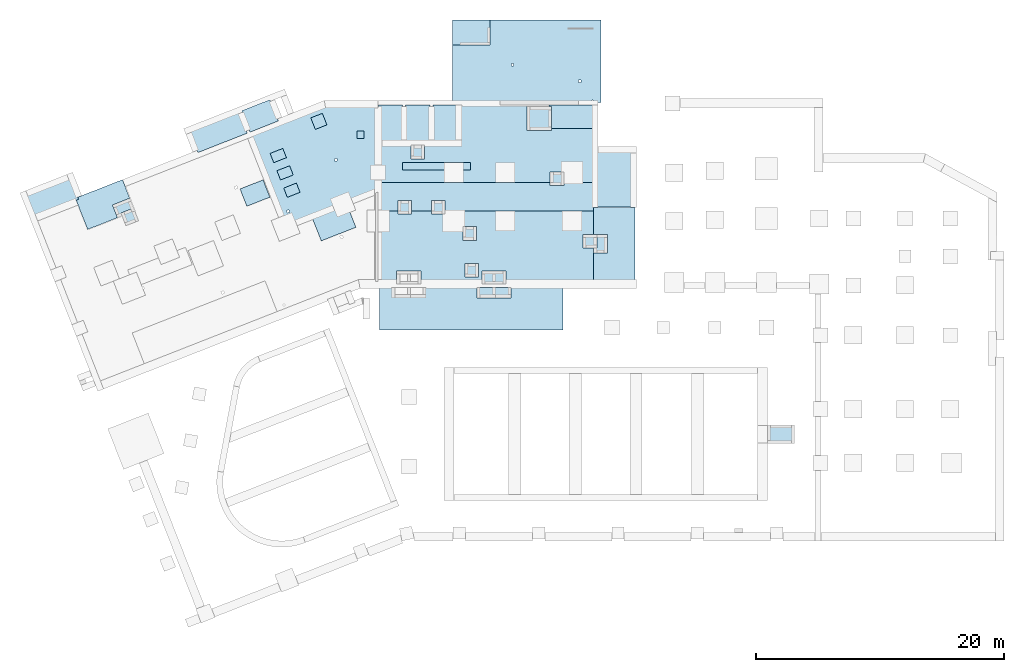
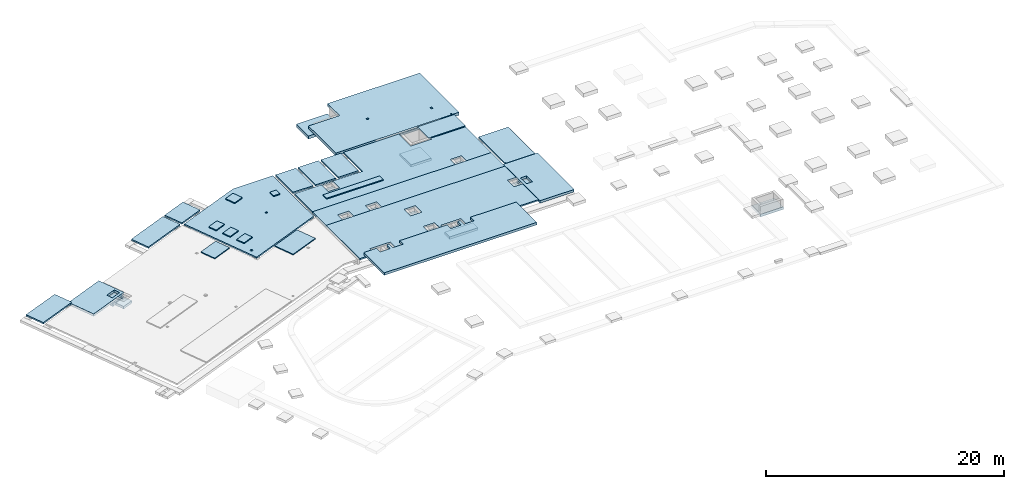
# One storey, part 4 of 9: 38 slabs, 24 openings.
"""IFC2X3 building model written with IfcOpenShell, lengths in metres."""

from ifc_helpers import new_model, entity, si_unit, converted_unit, direction, frame, frame_2d, origin, origin_with_axes, origin_2d_with_axis, place, context, subcontext, project, spatial, polyline, rectangle, circle, outline, extrude, material, element, save


model = new_model("IFC2X3")

# Units and contexts
model_context = context("Model", 3, precision=1e-05, world=origin(), true_north=direction((-0.407059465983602, -0.913401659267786)))
body_context = subcontext(model_context, "Body", "Model", "MODEL_VIEW")
ifc_project = project(units=[si_unit("LENGTHUNIT", "METRE"), si_unit("AREAUNIT", "SQUARE_METRE"), si_unit("VOLUMEUNIT", "CUBIC_METRE"), si_unit("MASSUNIT", "GRAM", prefix="KILO"), converted_unit("PLANEANGLEUNIT", "DEGREE", entity("IfcPlaneAngleMeasure", 0.0174532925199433), si_unit("PLANEANGLEUNIT", "RADIAN"), dimensions=[0, 0, 0, 0, 0, 0, 0])], contexts=[model_context])

# Site, buildings, storey
site_placement = place(None, origin())
site = spatial("IfcSite", under=ifc_project, at=site_placement, Name="Site", CompositionType="ELEMENT")
building_1_placement = place(site_placement, origin())
building_1 = spatial("IfcBuilding", under=site, at=building_1_placement, Name="Site", CompositionType="COMPLEX")
building_2_placement = place(building_1_placement, origin())
building_2 = spatial("IfcBuilding", under=building_1, at=building_2_placement, Name="Bâtiments", CompositionType="ELEMENT")
storey_placement = place(building_2_placement, frame((0.0, 0.0, -7.1)))
storey = spatial("IfcBuildingStorey", under=building_2, at=storey_placement, Name="FONDATIONS", CompositionType="ELEMENT", Elevation=-7.1)

# Slabs
ifc_material_1 = material(Name="Dalle_BA")
slab_1_placement = place(storey_placement, frame((32.1621650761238, 0.401724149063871, 1.55)))
element("IfcSlab", 1, at=slab_1_placement, inside=storey, material=ifc_material_1, PredefinedType="FLOOR", context=body_context, shape_type="SweptSolid", body=[
    extrude(rectangle(XDim=1.1, YDim=1.1, at=frame_2d((0.549999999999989, -0.55), x_axis=(-2.31507742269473e-14, -1.0))), frame((2.5465851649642e-14, 1.1, 0.0), z_axis=(0.0, 0.0, 1.0), x_axis=(1.0, 0.0, 0.0)), (0.0, 0.0, 1.0), 0.25),
])
ifc_material_2 = material(Name="Dalle_BA")
slab_2_placement = place(storey_placement, frame((29.4621650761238, 0.401724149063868, 1.55)))
element("IfcSlab", 2, at=slab_2_placement, inside=storey, material=ifc_material_2, PredefinedType="FLOOR", context=body_context, shape_type="SweptSolid", body=[
    extrude(rectangle(XDim=1.1, YDim=1.1, at=frame_2d((0.549999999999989, -0.55), x_axis=(-2.31507742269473e-14, -1.0))), frame((2.5465851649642e-14, 1.1, 0.0), z_axis=(0.0, 0.0, 1.0), x_axis=(1.0, 0.0, 0.0)), (0.0, 0.0, 1.0), 0.25),
])
ifc_material_3 = material(Name="Dalle_BA")
slab_3_placement = place(storey_placement, frame((-0.520068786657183, 0.192062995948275, 2.15)))
element("IfcSlab", 3, at=slab_3_placement, inside=storey, material=ifc_material_3, PredefinedType="FLOOR", context=body_context, shape_type="SweptSolid", body=[
    extrude(outline(polyline([(0.0, 1.73547998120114), (0.681038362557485, 0.0), (4.2561673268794, 1.40271487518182), (3.58253569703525, 3.11964689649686), (0.0, 1.73547998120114)])), origin_with_axes(), (0.0, 0.0, 1.0), 0.15),
])
ifc_material_4 = material(Name="Dalle_BA")
slab_4_placement = place(storey_placement, frame((16.8725453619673, 7.01320894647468, 2.15)))
element("IfcSlab", 4, at=slab_4_placement, inside=storey, material=ifc_material_4, PredefinedType="FLOOR", context=body_context, shape_type="SweptSolid", body=[
    extrude(rectangle(XDim=2.45580828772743, YDim=1.84429703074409, at=frame_2d((0.806258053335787, 1.30692556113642), x_axis=(0.930910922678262, 0.365246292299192))), frame((0.673622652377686, 0.0, 0.0), z_axis=(0.0, 0.0, 1.0), x_axis=(1.0, 0.0, 0.0)), (0.0, 0.0, 1.0), 0.15),
])
ifc_material_5 = material(Name="Dalle_BA")
slab_5_placement = place(storey_placement, frame((12.6757007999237, 5.36656169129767, 2.15)))
element("IfcSlab", 5, at=slab_5_placement, inside=storey, material=ifc_material_5, PredefinedType="FLOOR", context=body_context, shape_type="SweptSolid", body=[
    extrude(rectangle(XDim=4.26832024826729, YDim=1.84429703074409, at=frame_2d((1.64990164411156, 1.63793219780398), x_axis=(0.930910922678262, 0.365246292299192))), frame((0.673622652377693, 0.0, 0.0), z_axis=(0.0, 0.0, 1.0), x_axis=(1.0, 0.0, 0.0)), (0.0, 0.0, 1.0), 0.15),
])

# Slab, opening
ifc_material_6 = material(Name="Dalle_BA")
slab_6_placement = place(storey_placement, frame((3.4717584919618, -0.828486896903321, 2.05)))
slab_6 = element("IfcSlab", 6, at=slab_6_placement, inside=storey, material=ifc_material_6, PredefinedType="FLOOR", context=body_context, shape_type="SweptSolid", body=[
    extrude(rectangle(XDim=4.07783117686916, YDim=2.70659510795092, at=frame_2d((1.40376187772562, 2.00450583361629), x_axis=(0.930910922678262, 0.365246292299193))), frame((0.988573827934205, 0.0, 0.0), z_axis=(0.0, 0.0, 1.0), x_axis=(1.0, 0.0, 0.0)), (0.0, 0.0, 1.0), 0.25),
])
opening_1_placement = place(slab_6_placement, frame((3.31039278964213, 1.26604293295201, 0.0)))
element("IfcOpeningElement", 7, at=opening_1_placement, cuts=slab_6, Name="Trémie dans dalle", ObjectType="Opening", context=body_context, shape_type="SweptSolid", body=[
    extrude(rectangle(XDim=1.0, YDim=0.6, at=frame_2d((-9.09494701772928e-16, -2.8421709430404e-17), x_axis=(0.930910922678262, 0.365246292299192))), frame((0.57502934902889, 0.461896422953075, 0.0), z_axis=(0.0, 0.0, 1.0), x_axis=(1.0, 0.0, 0.0)), (0.0, 0.0, 1.0), 0.25),
])

# Slab
ifc_material_7 = material(Name="Dalle_BA")
slab_7_placement = place(storey_placement, frame((7.14093569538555, -0.531659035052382, 1.55)))
element("IfcSlab", 8, at=slab_7_placement, inside=storey, material=ifc_material_7, PredefinedType="FLOOR", context=body_context, shape_type="SweptSolid", body=[
    extrude(rectangle(XDim=1.1, YDim=1.1, at=frame_2d((0.712886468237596, -0.311115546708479), x_axis=(0.365246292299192, -0.930910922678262))), frame((0.0, 1.02400201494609, 0.0), z_axis=(0.0, 0.0, 1.0), x_axis=(1.0, 0.0, 0.0)), (0.0, 0.0, 1.0), 0.25),
])

# Slab, openings
ifc_material_8 = material(Name="Dalle_BA")
slab_8_placement = place(storey_placement, frame((17.6338508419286, -0.452616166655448, 2.15)))
slab_8 = element("IfcSlab", 9, at=slab_8_placement, inside=storey, material=ifc_material_8, PredefinedType="FLOOR", context=body_context, shape_type="SweptSolid", body=[
    extrude(outline(polyline([(6.11842839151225, 9.64300346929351), (0.0, 7.24241579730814), (2.83048579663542, 0.0282915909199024), (2.87701003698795, 0.0465455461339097), (2.8952723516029, 0.0), (10.0087808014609, 2.7910109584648), (10.0087965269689, 9.64300346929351), (6.11842839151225, 9.64300346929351)])), origin_with_axes(), (0.0, 0.0, 1.0), 0.15),
])
opening_2_placement = place(slab_8_placement, frame((6.70625395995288, 5.10516693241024, 0.0)))
element("IfcOpeningElement", 10, at=opening_2_placement, cuts=slab_8, Name="Trémie dans dalle", ObjectType="Opening", context=body_context, shape_type="SweptSolid", body=[
    extrude(rectangle(XDim=0.200000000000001, YDim=0.200000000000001, at=frame_2d((0.0, 0.0), x_axis=(0.365246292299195, -0.930910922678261))), frame((0.129615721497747, 0.129615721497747, 0.0), z_axis=(0.0, 0.0, 1.0), x_axis=(1.0, 0.0, 0.0)), (0.0, 0.0, 1.0), 0.15),
])
opening_3_placement = place(slab_8_placement, frame((2.85271389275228, 0.948858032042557, 0.0)))
element("IfcOpeningElement", 11, at=opening_3_placement, cuts=slab_8, Name="Trémie dans dalle", ObjectType="Opening", context=body_context, shape_type="SweptSolid", body=[
    extrude(rectangle(XDim=0.2, YDim=0.199999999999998, at=frame_2d((1.81898940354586e-15, 0.0), x_axis=(0.365246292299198, -0.93091092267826))), frame((0.129615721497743, 0.129615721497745, 0.0), z_axis=(0.0, 0.0, 1.0), x_axis=(1.0, 0.0, 0.0)), (0.0, 0.0, 1.0), 0.15),
])

# Slab
ifc_material_9 = material(Name="Dalle_BA")
slab_9_placement = place(storey_placement, frame((35.8340005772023, -6.33842566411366, 2.3)))
element("IfcSlab", 12, at=slab_9_placement, inside=storey, material=ifc_material_9, PredefinedType="FLOOR", context=body_context, shape_type="SweptSolid", body=[
    extrude(rectangle(XDim=0.849536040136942, YDim=2.75, at=frame_2d((-1.375, 0.424768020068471), x_axis=(0.0, 1.0))), frame((2.75, 0.0, 0.0), z_axis=(0.0, 0.0, 1.0), x_axis=(1.0, 0.0, 0.0)), (0.0, 0.0, 1.0), 0.25),
])

# Slab, openings
ifc_material_10 = material(Name="Dalle_BA")
slab_10_placement = place(storey_placement, frame((27.9826274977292, -8.93896255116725, 2.95)))
slab_10 = element("IfcSlab", 13, at=slab_10_placement, inside=storey, material=ifc_material_10, PredefinedType="FLOOR", context=body_context, shape_type="SweptSolid", body=[
    extrude(outline(polyline([(14.800526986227, 0.0), (14.800526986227, 3.4500729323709), (0.0, 3.45007292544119), (0.000526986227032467, 0.0), (14.800526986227, 0.0)])), origin_with_axes(), (0.0, 0.0, 1.0), 0.25),
])
opening_4_placement = place(slab_10_placement, frame((8.10137307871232, 2.8500729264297, 0.0)))
element("IfcOpeningElement", 14, at=opening_4_placement, cuts=slab_10, Name="Trémie dans dalle", ObjectType="Opening", context=body_context, shape_type="SweptSolid", body=[
    extrude(rectangle(XDim=1.0, YDim=0.6, at=frame_2d((7.27595761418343e-15, 9.09494701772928e-16), x_axis=(-1.0, 0.0))), frame((0.499999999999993, 0.299999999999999, 0.0), z_axis=(0.0, 0.0, 1.0), x_axis=(1.0, 0.0, 0.0)), (0.0, 0.0, 1.0), 0.25),
])
opening_5_placement = place(slab_10_placement, frame((9.35137307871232, 2.85007292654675, 0.0)))
element("IfcOpeningElement", 15, at=opening_5_placement, cuts=slab_10, Name="Trémie dans dalle", ObjectType="Opening", context=body_context, shape_type="SweptSolid", body=[
    extrude(rectangle(XDim=1.0, YDim=0.6, at=frame_2d((7.27595761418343e-15, 0.0), x_axis=(-1.0, 0.0))), frame((0.499999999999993, 0.3, 0.0), z_axis=(0.0, 0.0, 1.0), x_axis=(1.0, 0.0, 0.0)), (0.0, 0.0, 1.0), 0.25),
])
opening_6_placement = place(slab_10_placement, frame((2.48625863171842, 2.85053688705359, 0.0)))
element("IfcOpeningElement", 16, at=opening_6_placement, cuts=slab_10, Name="Trémie dans dalle", ObjectType="Opening", context=body_context, shape_type="SweptSolid", body=[
    extrude(rectangle(XDim=1.0, YDim=0.6, at=frame_2d((3.63797880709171e-15, 9.09494701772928e-16), x_axis=(-1.0, 0.0))), frame((0.499999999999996, 0.299999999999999, 0.0), z_axis=(0.0, 0.0, 1.0), x_axis=(1.0, 0.0, 0.0)), (0.0, 0.0, 1.0), 0.25),
])
opening_7_placement = place(slab_10_placement, frame((1.23625863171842, 2.8500729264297, 0.0)))
element("IfcOpeningElement", 17, at=opening_7_placement, cuts=slab_10, Name="Trémie dans dalle", ObjectType="Opening", context=body_context, shape_type="SweptSolid", body=[
    extrude(rectangle(XDim=1.0, YDim=0.6, at=frame_2d((3.63797880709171e-15, 9.09494701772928e-16), x_axis=(-1.0, 0.0))), frame((0.499999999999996, 0.299999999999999, 0.0), z_axis=(0.0, 0.0, 1.0), x_axis=(1.0, 0.0, 0.0)), (0.0, 0.0, 1.0), 0.25),
])

# Slabs
ifc_material_11 = material(Name="Dalle_BA")
slab_11_placement = place(storey_placement, frame((32.2888387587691, 6.23706783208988, 2.15)))
element("IfcSlab", 18, at=slab_11_placement, inside=storey, material=ifc_material_11, PredefinedType="FLOOR", context=body_context, shape_type="SweptSolid", body=[
    extrude(rectangle(XDim=1.95925197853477, YDim=2.95331947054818, at=frame_2d((0.979625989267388, 1.47665973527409), x_axis=(1.0, 0.0))), origin_with_axes(), (0.0, 0.0, 1.0), 0.15),
])
ifc_material_12 = material(Name="Dalle_BA")
slab_12_placement = place(storey_placement, frame((30.0873360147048, 6.23706783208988, 2.15)))
element("IfcSlab", 19, at=slab_12_placement, inside=storey, material=ifc_material_12, PredefinedType="FLOOR", context=body_context, shape_type="SweptSolid", body=[
    extrude(rectangle(XDim=1.96150274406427, YDim=2.95331947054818, at=frame_2d((0.980751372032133, 1.47665973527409), x_axis=(1.0, 0.0))), origin_with_axes(), (0.0, 0.0, 1.0), 0.15),
])
ifc_material_13 = material(Name="Dalle_BA")
slab_13_placement = place(storey_placement, frame((27.8826406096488, 6.23706783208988, 2.15)))
element("IfcSlab", 20, at=slab_13_placement, inside=storey, material=ifc_material_13, PredefinedType="FLOOR", context=body_context, shape_type="SweptSolid", body=[
    extrude(outline(polyline([(1.96469540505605, 2.95331947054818), (6.7592494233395e-06, 2.95331947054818), (0.0, 0.00814744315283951), (0.00822720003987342, 0.0), (1.96469540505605, 0.0), (1.96469540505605, 2.95331947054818)])), origin_with_axes(), (0.0, 0.0, 1.0), 0.15),
])
ifc_material_14 = material(Name="Dalle_BA")
slab_14_placement = place(storey_placement, frame((22.5575995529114, -1.75389501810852, 2.3)))
element("IfcSlab", 21, at=slab_14_placement, inside=storey, material=ifc_material_14, PredefinedType="FLOOR", context=body_context, shape_type="SweptSolid", body=[
    extrude(rectangle(XDim=2.99914449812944, YDim=1.99893592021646, at=frame_2d((1.03091621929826, 1.47812884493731), x_axis=(0.930910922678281, 0.365246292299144))), frame((0.730103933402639, 0.0, 0.0), z_axis=(0.0, 0.0, 1.0), x_axis=(1.0, 0.0, 0.0)), (0.0, 0.0, 1.0), 0.1),
])
ifc_material_15 = material(Name="Dalle_BA")
slab_15_placement = place(storey_placement, frame((33.8680907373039, 14.0202841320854, 0.95)))
element("IfcSlab", 22, at=slab_15_placement, inside=storey, material=ifc_material_15, PredefinedType="FLOOR", context=body_context, shape_type="SweptSolid", body=[
    extrude(rectangle(XDim=3.02999999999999, YDim=2.03, at=frame_2d((-1.51499999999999, -1.015), x_axis=(-1.0, 0.0))), frame((3.02999999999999, 2.03, 0.0), z_axis=(0.0, 0.0, 1.0), x_axis=(1.0, 0.0, 0.0)), (0.0, 0.0, 1.0), 0.3),
])

# Slab, opening
ifc_material_16 = material(Name="Dalle_BA")
slab_16_placement = place(storey_placement, frame((45.2426440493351, -5.21893746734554, 2.05)))
slab_16 = element("IfcSlab", 23, at=slab_16_placement, inside=storey, material=ifc_material_16, PredefinedType="FLOOR", context=body_context, shape_type="SweptSolid", body=[
    extrude(outline(polyline([(3.32205293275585, 0.0), (3.32205293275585, 6.17274838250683), (0.0, 6.17274838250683), (7.27595761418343e-15, 4.46104426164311e-05), (3.32205293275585, 0.0)])), origin_with_axes(), (0.0, 0.0, 1.0), 0.25),
])
opening_8_placement = place(slab_16_placement, frame((0.249625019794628, 2.72439457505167, 0.0)))
element("IfcOpeningElement", 24, at=opening_8_placement, cuts=slab_16, Name="Trémie dans dalle", ObjectType="Opening", context=body_context, shape_type="SweptSolid", body=[
    extrude(rectangle(XDim=0.6, YDim=1.0, at=frame_2d((7.27595761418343e-15, 4.54747350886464e-16), x_axis=(1.0, 0.0))), frame((0.299999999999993, 0.5, 0.0), z_axis=(0.0, 0.0, 1.0), x_axis=(1.0, 0.0, 0.0)), (0.0, 0.0, 1.0), 0.25),
])

# Slab
ifc_material_17 = material(Name="Dalle_BA")
slab_17_placement = place(storey_placement, frame((6.45811197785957, 0.113516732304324, 1.65)))
element("IfcSlab", 25, at=slab_17_placement, inside=storey, material=ifc_material_17, PredefinedType="FLOOR", context=body_context, shape_type="SweptSolid", body=[
    extrude(rectangle(XDim=1.1, YDim=1.5, at=frame_2d((0.899068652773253, -0.23806628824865), x_axis=(0.365246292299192, -0.930910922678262))), frame((0.0, 1.02400201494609, 0.0), z_axis=(0.0, 0.0, 1.0), x_axis=(1.0, 0.0, 0.0)), (0.0, 0.0, 1.0), 0.25),
])

# Slab, opening
ifc_material_18 = material(Name="Dalle_BA")
slab_18_placement = place(storey_placement, frame((45.4626440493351, 0.973810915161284, 2.15)))
slab_18 = element("IfcSlab", 26, at=slab_18_placement, inside=storey, material=ifc_material_18, PredefinedType="FLOOR", context=body_context, shape_type="SweptSolid", body=[
    extrude(rectangle(XDim=2.88205293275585, YDim=4.50465431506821, at=frame_2d((1.44102646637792, 2.25232715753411), x_axis=(1.0, -3.55018302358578e-16))), frame((7.27595761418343e-15, 1.02318153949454e-15, 0.0), z_axis=(0.0, 0.0, 1.0), x_axis=(1.0, 0.0, 0.0)), (0.0, 0.0, 1.0), 0.15),
])
opening_9_placement = place(slab_18_placement, frame((-0.00982039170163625, -0.00982034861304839, 0.0)))
element("IfcOpeningElement", 27, at=opening_9_placement, cuts=slab_18, Name="Trémie dans dalle", ObjectType="Opening", context=body_context, shape_type="SweptSolid", body=[
    extrude(circle(Radius=0.0499999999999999, at=frame_2d((-1.45519152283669e-14, 2.27373675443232e-16), x_axis=(1.0, 0.0))), frame((0.0498203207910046, 0.0498203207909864, 0.0), z_axis=(0.0, 0.0, 1.0), x_axis=(1.0, 0.0, 0.0)), (0.0, 0.0, 1.0), 0.15),
])

# Slabs
ifc_material_19 = material(Name="Dalle_BA")
slab_19_placement = place(storey_placement, frame((20.2608909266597, 1.75937814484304, 2.3)))
element("IfcSlab", 28, at=slab_19_placement, inside=storey, material=ifc_material_19, PredefinedType="FLOOR", context=body_context, shape_type="SweptSolid", body=[
    extrude(rectangle(XDim=1.10000868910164, YDim=0.799988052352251, at=frame_2d((0.365908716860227, 0.573245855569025), x_axis=(0.930910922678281, 0.365246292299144))), frame((0.292192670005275, 0.0, 0.0), z_axis=(0.0, 0.0, 1.0), x_axis=(1.0, 0.0, 0.0)), (0.0, 0.0, 1.0), 0.1),
])
ifc_material_20 = material(Name="Dalle_BA")
slab_20_placement = place(storey_placement, frame((19.1651264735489, 4.55210087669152, 2.3)))
element("IfcSlab", 29, at=slab_20_placement, inside=storey, material=ifc_material_20, PredefinedType="FLOOR", context=body_context, shape_type="SweptSolid", body=[
    extrude(rectangle(XDim=1.10000868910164, YDim=0.799988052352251, at=frame_2d((0.365908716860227, 0.573245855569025), x_axis=(0.930910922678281, 0.365246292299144))), frame((0.292192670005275, 0.0, 0.0), z_axis=(0.0, 0.0, 1.0), x_axis=(1.0, 0.0, 0.0)), (0.0, 0.0, 1.0), 0.1),
])
ifc_material_21 = material(Name="Dalle_BA")
slab_21_placement = place(storey_placement, frame((19.7130087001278, 3.15573951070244, 2.3)))
element("IfcSlab", 30, at=slab_21_placement, inside=storey, material=ifc_material_21, PredefinedType="FLOOR", context=body_context, shape_type="SweptSolid", body=[
    extrude(rectangle(XDim=1.10000868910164, YDim=0.799988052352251, at=frame_2d((0.365908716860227, 0.573245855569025), x_axis=(0.930910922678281, 0.365246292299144))), frame((0.292192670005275, 0.0, 0.0), z_axis=(0.0, 0.0, 1.0), x_axis=(1.0, 0.0, 0.0)), (0.0, 0.0, 1.0), 0.1),
])
ifc_material_22 = material(Name="Dalle_BA")
slab_22_placement = place(storey_placement, frame((16.742497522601, 1.03861717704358, 2.3)))
element("IfcSlab", 31, at=slab_22_placement, inside=storey, material=ifc_material_22, PredefinedType="FLOOR", context=body_context, shape_type="SweptSolid", body=[
    extrude(rectangle(XDim=1.99892513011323, YDim=1.50143209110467, at=frame_2d((0.65621436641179, 1.06389976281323), x_axis=(0.93091092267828, 0.365246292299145))), frame((0.548392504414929, 0.0, 0.0), z_axis=(0.0, 0.0, 1.0), x_axis=(1.0, 0.0, 0.0)), (0.0, 0.0, 1.0), 0.1),
])
ifc_material_23 = material(Name="Dalle_BA")
slab_23_placement = place(storey_placement, frame((26.1521805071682, 6.5031986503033, 2.3)))
element("IfcSlab", 32, at=slab_23_placement, inside=storey, material=ifc_material_23, PredefinedType="FLOOR", context=body_context, shape_type="SweptSolid", body=[
    extrude(rectangle(XDim=0.599999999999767, YDim=0.6, at=frame_2d((0.3, -0.299999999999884), x_axis=(0.0, -1.0))), frame((0.0, 0.599999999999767, 0.0), z_axis=(0.0, 0.0, 1.0), x_axis=(1.0, 0.0, 0.0)), (0.0, 0.0, 1.0), 0.1),
])
ifc_material_24 = material(Name="Dalle_BA")
slab_24_placement = place(storey_placement, frame((22.4451054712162, 7.23098910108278, 2.3)))
element("IfcSlab", 33, at=slab_24_placement, inside=storey, material=ifc_material_24, PredefinedType="FLOOR", context=body_context, shape_type="SweptSolid", body=[
    extrude(rectangle(XDim=1.00000868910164, YDim=0.99998805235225, at=frame_2d((0.282838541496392, 0.648074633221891), x_axis=(0.930910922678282, 0.36524629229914))), frame((0.365241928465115, 0.0, 0.0), z_axis=(0.0, 0.0, 1.0), x_axis=(1.0, 0.0, 0.0)), (0.0, 0.0, 1.0), 0.1),
])
ifc_material_25 = material(Name="Dalle_BA")
slab_25_placement = place(storey_placement, frame((41.7423208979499, 2.70172912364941, 1.55)))
element("IfcSlab", 34, at=slab_25_placement, inside=storey, material=ifc_material_25, PredefinedType="FLOOR", context=body_context, shape_type="SweptSolid", body=[
    extrude(rectangle(XDim=1.1, YDim=1.1, at=frame_2d((0.549999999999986, -0.55), x_axis=(-2.64580276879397e-14, -1.0))), frame((2.91038304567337e-14, 1.1, 0.0), z_axis=(0.0, 0.0, 1.0), x_axis=(1.0, 0.0, 0.0)), (0.0, 0.0, 1.0), 0.25),
])
ifc_material_26 = material(Name="Dalle_BA")
slab_26_placement = place(storey_placement, frame((44.3922690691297, -2.3445428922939, 1.55)))
element("IfcSlab", 35, at=slab_26_placement, inside=storey, material=ifc_material_26, PredefinedType="FLOOR", context=body_context, shape_type="SweptSolid", body=[
    extrude(rectangle(XDim=1.1, YDim=1.1, at=frame_2d((0.55, 0.550000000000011), x_axis=(1.0, 2.31507742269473e-14))), origin_with_axes(), (0.0, 0.0, 1.0), 0.25),
])

# Slab, openings
ifc_material_27 = material(Name="Dalle_BA")
slab_27_placement = place(storey_placement, frame((27.8826484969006, 0.651724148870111, 2.1)))
slab_27 = element("IfcSlab", 36, at=slab_27_placement, inside=storey, material=ifc_material_27, PredefinedType="FLOOR", context=body_context, shape_type="SweptSolid", body=[
    extrude(outline(polyline([(3.30444006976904e-06, 1.43717608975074), (0.0, 0.0), (17.3458672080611, 0.0), (17.3458672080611, 2.30000497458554), (5.28503607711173e-06, 2.30000497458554), (3.50292232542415e-06, 1.52349396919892), (3.30444006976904e-06, 1.43717608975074)])), origin_with_axes(), (0.0, 0.0, 1.0), 0.2),
])
opening_10_placement = place(slab_27_placement, frame((4.27951657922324, -0.24999999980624, 0.0)))
element("IfcOpeningElement", 37, at=opening_10_placement, cuts=slab_27, Name="Trémie dans dalle", ObjectType="Opening", context=body_context, shape_type="SweptSolid", body=[
    extrude(rectangle(XDim=1.09999999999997, YDim=1.1, at=frame_2d((-1.81898940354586e-15, 0.0), x_axis=(-1.0, 0.0))), frame((0.549999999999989, 0.55, 0.0), z_axis=(0.0, 0.0, 1.0), x_axis=(1.0, 0.0, 0.0)), (0.0, 0.0, 1.0), 0.2),
])
opening_11_placement = place(slab_27_placement, frame((1.57951657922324, -0.249999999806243, 0.0)))
element("IfcOpeningElement", 38, at=opening_11_placement, cuts=slab_27, Name="Trémie dans dalle", ObjectType="Opening", context=body_context, shape_type="SweptSolid", body=[
    extrude(rectangle(XDim=1.09999999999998, YDim=1.1, at=frame_2d((0.0, 0.0), x_axis=(-1.0, 0.0))), frame((0.549999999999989, 0.55, 0.0), z_axis=(0.0, 0.0, 1.0), x_axis=(1.0, 0.0, 0.0)), (0.0, 0.0, 1.0), 0.2),
])
opening_12_placement = place(slab_27_placement, frame((4.27951657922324, -0.24999999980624, -5.3)))
element("IfcOpeningElement", 39, at=opening_12_placement, cuts=slab_27, Name="Trémie dans dalle", ObjectType="Opening", context=body_context, shape_type="SweptSolid", body=[
    extrude(rectangle(XDim=1.09999999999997, YDim=1.1, at=frame_2d((-1.81898940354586e-15, 0.0), x_axis=(-1.0, 0.0))), frame((0.549999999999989, 0.55, 0.0), z_axis=(0.0, 0.0, 1.0), x_axis=(1.0, 0.0, 0.0)), (0.0, 0.0, 1.0), 0.2),
])

# Slabs
ifc_material_28 = material(Name="Dalle_BA")
slab_28_placement = place(storey_placement, frame((30.5044459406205, 4.85835778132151, 1.55)))
element("IfcSlab", 40, at=slab_28_placement, inside=storey, material=ifc_material_28, PredefinedType="FLOOR", context=body_context, shape_type="SweptSolid", body=[
    extrude(rectangle(XDim=1.1, YDim=1.1, at=frame_2d((0.549999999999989, -0.55), x_axis=(-2.31507742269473e-14, -1.0))), frame((2.5465851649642e-14, 1.1, 0.0), z_axis=(0.0, 0.0, 1.0), x_axis=(1.0, 0.0, 0.0)), (0.0, 0.0, 1.0), 0.25),
])
ifc_material_29 = material(Name="Dalle_BA")
slab_29_placement = place(storey_placement, frame((34.7124715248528, -1.70370520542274, 1.55)))
element("IfcSlab", 41, at=slab_29_placement, inside=storey, material=ifc_material_29, PredefinedType="FLOOR", context=body_context, shape_type="SweptSolid", body=[
    extrude(rectangle(XDim=1.1, YDim=1.1, at=frame_2d((0.549999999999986, -0.55), x_axis=(-2.64580276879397e-14, -1.0))), frame((2.91038304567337e-14, 1.1, 0.0), z_axis=(0.0, 0.0, 1.0), x_axis=(1.0, 0.0, 0.0)), (0.0, 0.0, 1.0), 0.25),
])
ifc_material_30 = material(Name="Dalle_BA")
slab_30_placement = place(storey_placement, frame((34.8700869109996, -4.67840873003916, 1.55)))
element("IfcSlab", 42, at=slab_30_placement, inside=storey, material=ifc_material_30, PredefinedType="FLOOR", context=body_context, shape_type="SweptSolid", body=[
    extrude(rectangle(XDim=1.1, YDim=1.1, at=frame_2d((0.549999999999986, -0.55), x_axis=(-2.64580276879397e-14, -1.0))), frame((2.91038304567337e-14, 1.1, 0.0), z_axis=(0.0, 0.0, 1.0), x_axis=(1.0, 0.0, 0.0)), (0.0, 0.0, 1.0), 0.25),
])
ifc_material_31 = material(Name="Dalle_BA")
slab_31_placement = place(storey_placement, frame((36.2301009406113, -5.21843455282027, 1.55)))
element("IfcSlab", 43, at=slab_31_placement, inside=storey, material=ifc_material_31, PredefinedType="FLOOR", context=body_context, shape_type="SweptSolid", body=[
    extrude(rectangle(XDim=1.05, YDim=1.95, at=frame_2d((0.975000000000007, -0.525000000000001), x_axis=(2.07884503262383e-14, -1.0))), frame((0.0, 1.05, 0.0), z_axis=(0.0, 0.0, 1.0), x_axis=(1.0, 0.0, 0.0)), (0.0, 0.0, 1.0), 0.25),
])
ifc_material_32 = material(Name="Dalle_BA")
slab_32_placement = place(storey_placement, frame((45.2422690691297, -2.74454289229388, 1.65)))
element("IfcSlab", 44, at=slab_32_placement, inside=storey, material=ifc_material_32, PredefinedType="FLOOR", context=body_context, shape_type="SweptSolid", body=[
    extrude(rectangle(XDim=1.1, YDim=1.5, at=frame_2d((0.55, 0.75), x_axis=(1.0, 0.0))), origin_with_axes(), (0.0, 0.0, 1.0), 0.25),
])

# Slab, openings
ifc_material_33 = material(Name="Dalle_BA")
slab_33_placement = place(storey_placement, frame((27.8626355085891, -4.99845961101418, 2.15)))
slab_33 = element("IfcSlab", 45, at=slab_33_placement, inside=storey, material=ifc_material_33, PredefinedType="FLOOR", context=body_context, shape_type="SweptSolid", body=[
    extrude(outline(polyline([(17.3658801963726, 0.0451406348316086), (17.3658801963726, 5.65018375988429), (0.0200129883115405, 5.65018375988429), (0.0199999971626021, 3.78206523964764e-05), (0.0, 3.73892589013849e-05), (0.0320245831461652, 3.73201829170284e-05), (17.3400295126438, 0.0), (17.3658801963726, 0.0451406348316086)])), origin_with_axes(), (0.0, 0.0, 1.0), 0.15),
    extrude(outline(polyline([(2.22725625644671e-06, 0.970470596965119), (1.44694706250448e-06, 0.630470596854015), (0.0, 0.0), (17.345861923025, 0.0), (17.345861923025, 6.2391287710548), (6.61130861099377, 6.2391287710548), (6.61130861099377, 3.04580930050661), (6.99021468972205e-06, 3.04580930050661), (2.22725625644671e-06, 0.970470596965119)])), frame((0.0200182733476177, 7.95018873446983, 0.0), z_axis=(0.0, 0.0, 1.0), x_axis=(1.0, 0.0, 0.0)), (0.0, 0.0, 1.0), 0.15),
])
opening_13_placement = place(slab_33_placement, frame((2.64181043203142, 9.8568173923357, 0.0)))
element("IfcOpeningElement", 46, at=opening_13_placement, cuts=slab_33, Name="Trémie dans dalle", ObjectType="Opening", context=body_context, shape_type="SweptSolid", body=[
    extrude(rectangle(XDim=1.1, YDim=1.10000000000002, at=frame_2d((3.63797880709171e-15, 0.0), x_axis=(0.0, -1.0))), frame((0.550000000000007, 0.55, 0.0), z_axis=(0.0, 0.0, 1.0), x_axis=(1.0, 0.0, 0.0)), (0.0, 0.0, 1.0), 0.15),
])
opening_14_placement = place(slab_33_placement, frame((13.8796853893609, 7.70018873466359, 0.0)))
element("IfcOpeningElement", 47, at=opening_14_placement, cuts=slab_33, Name="Trémie dans dalle", ObjectType="Opening", context=body_context, shape_type="SweptSolid", body=[
    extrude(rectangle(XDim=1.09999999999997, YDim=1.1, at=frame_2d((0.0, 0.0), x_axis=(-1.0, 0.0))), frame((0.549999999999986, 0.549999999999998, 0.0), z_axis=(0.0, 0.0, 1.0), x_axis=(1.0, 0.0, 0.0)), (0.0, 0.0, 1.0), 0.15),
])
opening_15_placement = place(slab_33_placement, frame((16.5296335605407, 2.6539167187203, 0.0)))
element("IfcOpeningElement", 48, at=opening_15_placement, cuts=slab_33, Name="Trémie dans dalle", ObjectType="Opening", context=body_context, shape_type="SweptSolid", body=[
    extrude(rectangle(XDim=0.85, YDim=1.09999999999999, at=frame_2d((0.0, 0.0), x_axis=(-1.0, 0.0))), frame((0.425, 0.549999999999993, 0.0), z_axis=(0.0, 0.0, 1.0), x_axis=(1.0, 0.0, 0.0)), (0.0, 0.0, 1.0), 0.15),
])
opening_16_placement = place(slab_33_placement, frame((16.5296335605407, 2.65391671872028, 0.0)))
element("IfcOpeningElement", 49, at=opening_16_placement, cuts=slab_33, Name="Trémie dans dalle", ObjectType="Opening", context=body_context, shape_type="SweptSolid", body=[
    extrude(rectangle(XDim=1.10000000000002, YDim=0.850000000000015, at=frame_2d((0.0, 0.0), x_axis=(0.0, -1.0))), frame((0.425000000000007, 0.550000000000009, 0.0), z_axis=(0.0, 0.0, 1.0), x_axis=(1.0, 0.0, 0.0)), (0.0, 0.0, 1.0), 0.15),
])
opening_17_placement = place(slab_33_placement, frame((8.36746543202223, 2.99341162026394e-05, 0.0)))
element("IfcOpeningElement", 50, at=opening_17_placement, cuts=slab_33, Name="Trémie dans dalle", ObjectType="Opening", context=body_context, shape_type="SweptSolid", body=[
    extrude(rectangle(XDim=1.95000000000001, YDim=0.829995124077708, at=frame_2d((7.27595761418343e-15, 0.0), x_axis=(-1.0, 0.0))), frame((0.975, 0.414997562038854, 0.0), z_axis=(0.0, 0.0, 1.0), x_axis=(1.0, 0.0, 0.0)), (0.0, 0.0, 1.0), 0.15),
])
opening_18_placement = place(slab_33_placement, frame((7.00745140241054, 0.320050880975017, 0.0)))
element("IfcOpeningElement", 51, at=opening_18_placement, cuts=slab_33, Name="Trémie dans dalle", ObjectType="Opening", context=body_context, shape_type="SweptSolid", body=[
    extrude(rectangle(XDim=1.1, YDim=1.10000000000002, at=frame_2d((-3.63797880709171e-15, 0.0), x_axis=(0.0, -1.0))), frame((0.550000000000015, 0.55, 0.0), z_axis=(0.0, 0.0, 1.0), x_axis=(1.0, 0.0, 0.0)), (0.0, 0.0, 1.0), 0.15),
])
opening_19_placement = place(slab_33_placement, frame((6.84983601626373, 3.29475440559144, 0.0)))
element("IfcOpeningElement", 52, at=opening_19_placement, cuts=slab_33, Name="Trémie dans dalle", ObjectType="Opening", context=body_context, shape_type="SweptSolid", body=[
    extrude(rectangle(XDim=1.09999999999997, YDim=1.1, at=frame_2d((0.0, 0.0), x_axis=(-1.0, 0.0))), frame((0.549999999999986, 0.55, 0.0), z_axis=(0.0, 0.0, 1.0), x_axis=(1.0, 0.0, 0.0)), (0.0, 0.0, 1.0), 0.15),
])
opening_20_placement = place(slab_33_placement, frame((1.50746543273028, 2.99341162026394e-05, 0.0)))
element("IfcOpeningElement", 53, at=opening_20_placement, cuts=slab_33, Name="Trémie dans dalle", ObjectType="Opening", context=body_context, shape_type="SweptSolid", body=[
    extrude(rectangle(XDim=1.95000000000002, YDim=0.829995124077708, at=frame_2d((-1.81898940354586e-15, 0.0), x_axis=(-1.0, 0.0))), frame((0.975000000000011, 0.414997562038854, 0.0), z_axis=(0.0, 0.0, 1.0), x_axis=(1.0, 0.0, 0.0)), (0.0, 0.0, 1.0), 0.15),
])
opening_21_placement = place(slab_33_placement, frame((12.000008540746, 12.1588469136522, 0.0)))
element("IfcOpeningElement", 54, at=opening_21_placement, cuts=slab_33, Name="Trémie dans dalle", ObjectType="Opening", context=body_context, shape_type="SweptSolid", body=[
    extrude(rectangle(XDim=2.00000000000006, YDim=1.9, at=frame_2d((-7.27595761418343e-15, -9.09494701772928e-16), x_axis=(-1.0, 0.0))), frame((1.00000000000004, 0.950000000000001, 0.0), z_axis=(0.0, 0.0, 1.0), x_axis=(1.0, 0.0, 0.0)), (0.0, 0.0, 1.0), 0.15),
])

# Slabs
ifc_material_34 = material(Name="Dalle_BA")
slab_34_placement = place(storey_placement, frame((39.8626440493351, 7.16038730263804, 0.11)))
element("IfcSlab", 55, at=slab_34_placement, inside=storey, material=ifc_material_34, PredefinedType="FLOOR", context=body_context, shape_type="SweptSolid", body=[
    extrude(rectangle(XDim=2.00000000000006, YDim=1.9, at=frame_2d((1.00000000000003, 0.95), x_axis=(1.0, 0.0))), origin_with_axes(), (0.0, 0.0, 1.0), 0.25),
])
ifc_material_35 = material(Name="Dalle_BA")
slab_35_placement = place(storey_placement, frame((41.6626440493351, 7.31038730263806, 2.3)))
element("IfcSlab", 56, at=slab_35_placement, inside=storey, material=ifc_material_35, PredefinedType="FLOOR", context=body_context, shape_type="SweptSolid", body=[
    extrude(rectangle(XDim=1.9, YDim=3.58, at=frame_2d((1.79, -0.95), x_axis=(0.0, -1.0))), frame((0.0, 1.9, 0.0), z_axis=(0.0, 0.0, 1.0), x_axis=(1.0, 0.0, 0.0)), (0.0, 0.0, 1.0), 0.1),
])

# Slab, openings
ifc_material_36 = material(Name="Dalle_BA")
slab_36_placement = place(storey_placement, frame((33.8680907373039, 9.41038730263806, 2.0)))
slab_36 = element("IfcSlab", 57, at=slab_36_placement, inside=storey, material=ifc_material_36, PredefinedType="FLOOR", context=body_context, shape_type="SweptSolid", body=[
    extrude(outline(polyline([(0.0, 0.0), (11.9745533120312, 0.0), (11.9745533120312, 6.63989682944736), (3.02999999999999, 6.63989682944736), (3.02999999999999, 4.60989682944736), (0.0, 4.60989682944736), (0.0, 0.0)])), origin_with_axes(), (0.0, 0.0, 1.0), 0.3),
])
opening_22_placement = place(slab_36_placement, frame((10.1691712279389, 1.6190769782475, 0.0)))
element("IfcOpeningElement", 58, at=opening_22_placement, cuts=slab_36, Name="Trémie dans dalle", ObjectType="Opening", context=body_context, shape_type="SweptSolid", body=[
    extrude(rectangle(XDim=0.2, YDim=0.2, at=frame_2d((0.0, 1.81898940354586e-15), x_axis=(1.0, 0.0))), frame((0.1, 0.0999999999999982, 0.0), z_axis=(0.0, 0.0, 1.0), x_axis=(1.0, 0.0, 0.0)), (0.0, 0.0, 1.0), 0.3),
])
opening_23_placement = place(slab_36_placement, frame((4.7321553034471, 2.92132829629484, 0.0)))
element("IfcOpeningElement", 59, at=opening_23_placement, cuts=slab_36, Name="Trémie dans dalle", ObjectType="Opening", context=body_context, shape_type="SweptSolid", body=[
    extrude(rectangle(XDim=0.2, YDim=0.2, at=origin_2d_with_axis()), frame((0.1, 0.1, 0.0), z_axis=(0.0, 0.0, 1.0), x_axis=(1.0, 0.0, 0.0)), (0.0, 0.0, 1.0), 0.3),
])
opening_24_placement = place(slab_36_placement, frame((11.2476443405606, 0.0926353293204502, 0.0)))
element("IfcOpeningElement", 60, at=opening_24_placement, cuts=slab_36, Name="Trémie dans dalle", ObjectType="Opening", context=body_context, shape_type="SweptSolid", body=[
    extrude(circle(Radius=0.0499999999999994, at=frame_2d((-7.27595761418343e-15, -1.81898940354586e-15), x_axis=(1.0, 0.0))), frame((0.0498203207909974, 0.0498203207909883, 0.0), z_axis=(0.0, 0.0, 1.0), x_axis=(1.0, 0.0, 0.0)), (0.0, 0.0, 1.0), 0.3),
])

# Slabs
ifc_material_37 = material(Name="Dalle_BA")
slab_37_placement = place(storey_placement, frame((59.233384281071, -18.0743058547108, 3.55)))
element("IfcSlab", 61, at=slab_37_placement, inside=storey, material=ifc_material_37, PredefinedType="FLOOR", context=body_context, shape_type="SweptSolid", body=[
    extrude(rectangle(XDim=1.50000000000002, YDim=2.19999999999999, at=frame_2d((1.09999999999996, -0.750000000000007), x_axis=(-3.88051072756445e-14, -1.0))), frame((5.82076609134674e-14, 1.50000000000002, 0.0), z_axis=(0.0, 0.0, 1.0), x_axis=(1.0, 0.0, 0.0)), (0.0, 0.0, 1.0), 0.25),
])
ifc_material_38 = material(Name="Dalle_BA")
slab_38_placement = place(storey_placement, frame((29.8225898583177, 3.94981681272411, 2.3)))
element("IfcSlab", 62, at=slab_38_placement, inside=storey, material=ifc_material_38, PredefinedType="FLOOR", context=body_context, shape_type="SweptSolid", body=[
    extrude(rectangle(XDim=0.6, YDim=5.5, at=frame_2d((2.75, -0.3), x_axis=(0.0, -1.0))), frame((0.0, 0.6, 0.0), z_axis=(0.0, 0.0, 1.0), x_axis=(1.0, 0.0, 0.0)), (0.0, 0.0, 1.0), 0.1),
])

save(model, "model.ifc")
